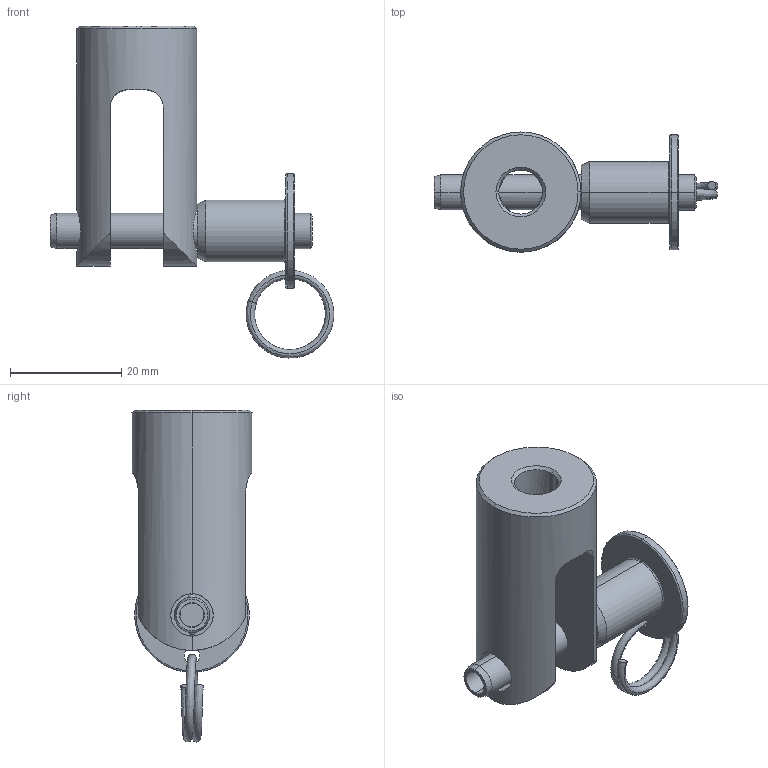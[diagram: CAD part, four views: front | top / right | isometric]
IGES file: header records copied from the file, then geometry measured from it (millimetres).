
Global section: file name: No Iges File Name specified; native system: Autodesk Inventor 2010; preprocessor: AutoDesk Inventor Iges Exporter R2010; author: mlampen; date: 20170420.115031; units: inch
Bounding box: 50.96 x 21.59 x 59.66 mm (x, y, z)
Volume: 11344.6 mm3; surface area: 7875.3 mm2
Topology: 6 solids, 6 shells, 87 faces, 212 edges, 128 vertices
Faces by surface type: revolution 28, plane 18, cylinder 18, cone 10, bspline 7, sphere 4, torus 2
